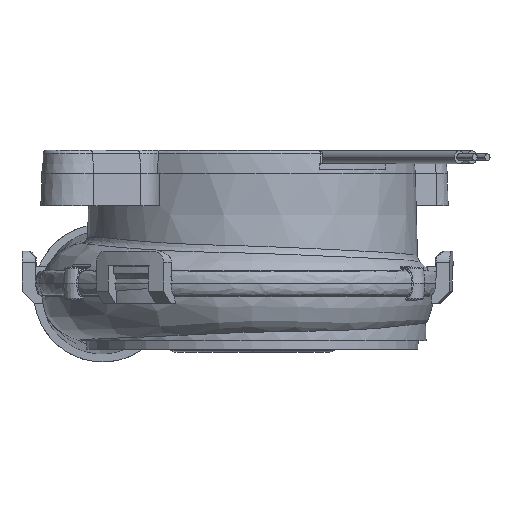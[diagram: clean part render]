
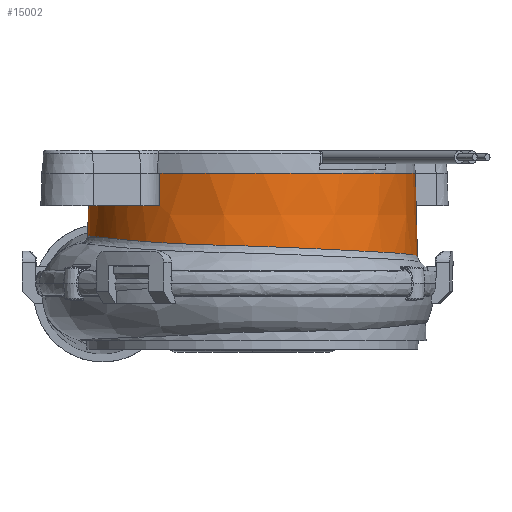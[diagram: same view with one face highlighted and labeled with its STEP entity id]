
A CAD part, left-side view. The second image highlights one B-rep face of the part: STEP entity #15002.
In plain terms, the highlighted conical face has half-angle 1.5 degrees and reference radius 20.472 mm.
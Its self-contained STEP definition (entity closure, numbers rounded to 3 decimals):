
#2146=DIRECTION('',(0.02,-0.017,1.));
#2147=VECTOR('',#2146,10.401);
#2148=CARTESIAN_POINT('',(-15.786,78.055,3.329));
#2149=LINE('',#2148,#2147);
#2470=CARTESIAN_POINT('',(0.,64.808,9.674));
#2471=DIRECTION('',(0.,0.,-1.));
#2472=DIRECTION('',(0.963,0.27,0.));
#2473=AXIS2_PLACEMENT_3D('',#2470,#2471,#2472);
#3387=CARTESIAN_POINT('',(19.68,70.335,9.674));
#3396=CARTESIAN_POINT('',(0.,64.808,13.726));
#3397=DIRECTION('',(0.,0.,1.));
#3398=DIRECTION('',(0.964,0.267,0.));
#3399=AXIS2_PLACEMENT_3D('',#3396,#3397,#3398);
#3401=CARTESIAN_POINT('',(-15.786,78.055,3.329));
#3402=CARTESIAN_POINT('',(-15.16,78.8,3.374));
#3403=CARTESIAN_POINT('',(-13.8,80.202,3.461));
#3404=CARTESIAN_POINT('',(-11.479,81.998,3.586));
#3405=CARTESIAN_POINT('',(-8.926,83.448,3.699));
#3406=CARTESIAN_POINT('',(-6.211,84.517,3.801));
#3407=CARTESIAN_POINT('',(-3.357,85.196,3.902));
#3408=CARTESIAN_POINT('',(-0.436,85.463,
4.014));
#3409=CARTESIAN_POINT('',(2.492,85.313,4.138));
#3410=CARTESIAN_POINT('',(5.365,84.751,4.268));
#3411=CARTESIAN_POINT('',(8.131,83.789,4.398));
#3412=CARTESIAN_POINT('',(10.734,82.444,4.521));
#3413=CARTESIAN_POINT('',(13.12,80.746,4.627));
#3414=CARTESIAN_POINT('',(15.239,78.73,4.711));
#3415=CARTESIAN_POINT('',(17.051,76.437,4.789));
#3416=CARTESIAN_POINT('',(18.518,73.914,4.888));
#3417=CARTESIAN_POINT('',(19.614,71.209,5.025));
#3418=CARTESIAN_POINT('',(20.317,68.376,5.189));
#3419=CARTESIAN_POINT('',(20.613,65.468,5.369));
#3420=CARTESIAN_POINT('',(20.494,62.544,5.551));
#3421=CARTESIAN_POINT('',(20.141,60.63,5.656));
#3422=CARTESIAN_POINT('',(19.898,59.691,5.705));
#3424=CARTESIAN_POINT('',(19.898,59.691,5.705));
#3425=CARTESIAN_POINT('',(19.642,58.702,5.759));
#3426=CARTESIAN_POINT('',(18.984,56.764,5.847));
#3427=CARTESIAN_POINT('',(17.582,54.043,5.921));
#3428=CARTESIAN_POINT('',(16.389,52.385,5.927));
#3429=CARTESIAN_POINT('',(15.735,51.605,5.919));
#3431=DIRECTION('',(-0.02,0.017,1.));
#3432=VECTOR('',#3431,7.81);
#3433=CARTESIAN_POINT('',(15.735,51.605,5.919));
#3434=LINE('',#3433,#3432);
#3435=CARTESIAN_POINT('',(0.,64.808,13.726));
#3436=DIRECTION('',(0.,0.,-1.));
#3437=DIRECTION('',(0.968,-0.252,0.));
#3438=AXIS2_PLACEMENT_3D('',#3435,#3436,#3437);
#3440=CARTESIAN_POINT('',(19.791,59.691,9.674));
#3441=CARTESIAN_POINT('',(19.779,59.691,10.125));
#3442=CARTESIAN_POINT('',(19.754,59.691,11.026));
#3443=CARTESIAN_POINT('',(19.719,59.691,12.377));
#3444=CARTESIAN_POINT('',(19.691,59.691,13.277));
#3445=CARTESIAN_POINT('',(19.679,59.691,13.726));
#3447=CARTESIAN_POINT('',(19.68,70.335,9.674));
#3448=CARTESIAN_POINT('',(19.671,70.324,10.127));
#3449=CARTESIAN_POINT('',(19.653,70.3,11.03));
#3450=CARTESIAN_POINT('',(19.627,70.268,12.381));
#3451=CARTESIAN_POINT('',(19.606,70.245,13.278));
#3452=CARTESIAN_POINT('',(19.597,70.235,13.726));
#5508=CARTESIAN_POINT('',(-15.786,78.055,3.329));
#5968=VERTEX_POINT('',#5508);
#6119=VERTEX_POINT('',#3387);
#6139=VERTEX_POINT('',#3424);
#6140=VERTEX_POINT('',#3429);
#6145=CARTESIAN_POINT('',(19.791,59.691,9.674));
#6146=VERTEX_POINT('',#6145);
#6235=CARTESIAN_POINT('',(19.676,59.691,13.726));
#6237=VERTEX_POINT('',#6235);
#6238=CARTESIAN_POINT('',(15.578,51.737,13.726));
#6239=VERTEX_POINT('',#6238);
#6246=CARTESIAN_POINT('',(-15.578,77.88,13.726));
#6247=VERTEX_POINT('',#6246);
#6248=CARTESIAN_POINT('',(19.594,70.234,13.726));
#6250=VERTEX_POINT('',#6248);
#14985=CARTESIAN_POINT('',(0.,64.808,8.527));
#14986=DIRECTION('',(0.,0.,-1.));
#14987=DIRECTION('',(-0.766,0.643,0.));
#14988=AXIS2_PLACEMENT_3D('',#14985,#14986,#14987);
#14989=CONICAL_SURFACE('',#14988,20.472,1.5);
#14990=ORIENTED_EDGE('',*,*,#13465,.T.);
#14991=ORIENTED_EDGE('',*,*,#13417,.F.);
#14993=ORIENTED_EDGE('',*,*,#14992,.T.);
#14994=ORIENTED_EDGE('',*,*,#13404,.T.);
#14995=ORIENTED_EDGE('',*,*,#13402,.T.);
#14996=ORIENTED_EDGE('',*,*,#13437,.F.);
#14997=ORIENTED_EDGE('',*,*,#13661,.F.);
#14998=ORIENTED_EDGE('',*,*,#13714,.F.);
#14999=ORIENTED_EDGE('',*,*,#14978,.T.);
#15000=EDGE_LOOP('',(#14990,#14991,#14993,#14994,#14995,#14996,#14997,#14998,
#14999));
#15001=FACE_OUTER_BOUND('',#15000,.F.);
#15002=ADVANCED_FACE('',(#15001),#14989,.T.);
#2474=CIRCLE('',#2473,20.442);
#3400=CIRCLE('',#3399,20.336);
#3423=B_SPLINE_CURVE_WITH_KNOTS('',3,(#3401,#3402,#3403,#3404,#3405,#3406,#3407,
#3408,#3409,#3410,#3411,#3412,#3413,#3414,#3415,#3416,#3417,#3418,#3419,#3420,
#3421,#3422),.UNSPECIFIED.,.F.,.F.,(4,1,1,1,1,1,1,1,1,1,1,1,1,1,1,1,1,1,1,4),(
0.,0.053,0.105,0.158,0.211,
0.263,0.316,0.368,0.421,
0.474,0.526,0.579,0.632,
0.684,0.737,0.789,0.842,
0.895,0.947,1.),.UNSPECIFIED.);
#3430=B_SPLINE_CURVE_WITH_KNOTS('',3,(#3424,#3425,#3426,#3427,#3428,#3429),
.UNSPECIFIED.,.F.,.F.,(4,1,1,4),(0.,0.333,0.667,1.),
.UNSPECIFIED.);
#3439=CIRCLE('',#3438,20.336);
#3446=B_SPLINE_CURVE_WITH_KNOTS('',3,(#3440,#3441,#3442,#3443,#3444,#3445),
.UNSPECIFIED.,.F.,.F.,(4,1,1,4),(0.,0.333,0.667,1.),
.UNSPECIFIED.);
#3453=B_SPLINE_CURVE_WITH_KNOTS('',3,(#3447,#3448,#3449,#3450,#3451,#3452),
.UNSPECIFIED.,.F.,.F.,(4,1,1,4),(0.,0.333,0.667,1.),
.UNSPECIFIED.);
#13402=EDGE_CURVE('',#6140,#6239,#3434,.T.);
#13404=EDGE_CURVE('',#6139,#6140,#3430,.T.);
#13417=EDGE_CURVE('',#5968,#6247,#2149,.T.);
#13437=EDGE_CURVE('',#6237,#6239,#3439,.T.);
#13465=EDGE_CURVE('',#6250,#6247,#3400,.T.);
#13661=EDGE_CURVE('',#6146,#6237,#3446,.T.);
#13714=EDGE_CURVE('',#6119,#6146,#2474,.T.);
#14978=EDGE_CURVE('',#6119,#6250,#3453,.T.);
#14992=EDGE_CURVE('',#5968,#6139,#3423,.T.);
